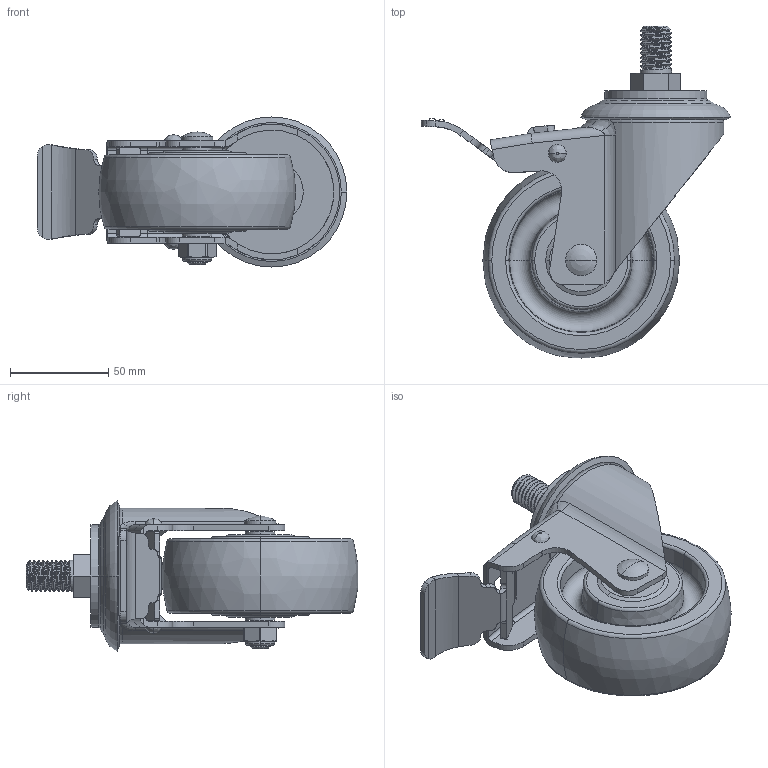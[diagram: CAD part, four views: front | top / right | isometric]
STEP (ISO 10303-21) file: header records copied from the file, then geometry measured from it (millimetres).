
FILE_DESCRIPTION((''),'2;1');
FILE_NAME('64144L-644-06_ASM','2021-03-25T',('lenovo'),(''),'PRO/ENGINEER BY PARAMETRIC TECHNOLOGY CORPORATION, 2010280','PRO/ENGINEER BY PARAMETRIC TECHNOLOGY CORPORATION, 2010280','');
FILE_SCHEMA(('CONFIG_CONTROL_DESIGN'));
Length unit declared in the file: millimetre
Products named in the file (7): 6410-53; 644-12; 644-806; 630-33A; 630-34; 640-14; 64144L-644-06_ASM
Assembly tree (6 placements, depth 2):
  64144L-644-06_ASM
    6410-53
    644-12
    644-806
    630-33A
    630-34
    640-14
Bounding box: 157.35 x 168.7 x 76.26 mm (x, y, z)
Volume: 357293.2 mm3; surface area: 93601.8 mm2
Topology: 6 solids, 8 shells, 332 faces, 815 edges, 505 vertices
Faces by surface type: plane 119, cylinder 111, bspline 36, cone 36, torus 28, sphere 2
Entity records: 13399 total; most frequent: CARTESIAN_POINT 5588, ORIENTED_EDGE 1600, DIRECTION 1593, EDGE_CURVE 813, AXIS2_PLACEMENT_3D 610, VERTEX_POINT 505, VECTOR 373, LINE 373
